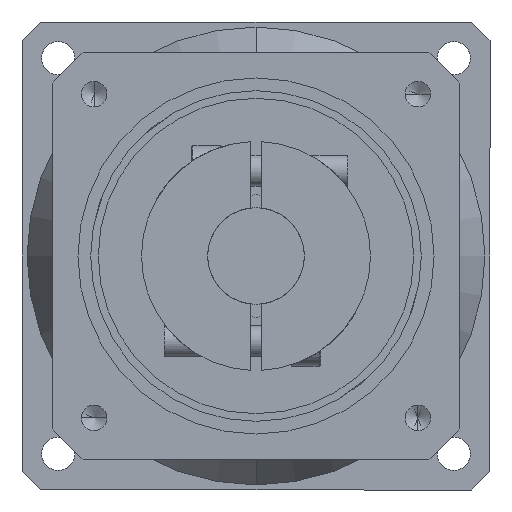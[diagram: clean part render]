
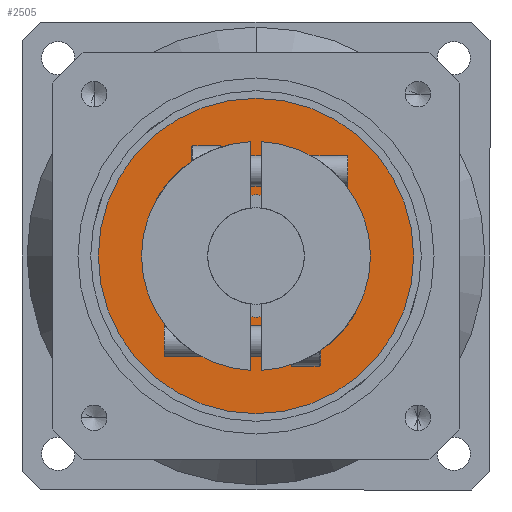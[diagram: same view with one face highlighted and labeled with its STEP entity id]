
A CAD part, front view. The second image highlights one B-rep face of the part: STEP entity #2505.
In plain terms, the highlighted planar face has unit normal (0, -1, 0).
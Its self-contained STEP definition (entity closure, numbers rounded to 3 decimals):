
#81 = VERTEX_POINT ( 'NONE', #3241 ) ;
#141 = EDGE_CURVE ( 'NONE', #81, #1250, #4349, .T. ) ;
#167 = CARTESIAN_POINT ( 'NONE',  ( 0., -122.1, 12. ) ) ;
#180 = DIRECTION ( 'NONE',  ( 0., 0., 1. ) ) ;
#212 = AXIS2_PLACEMENT_3D ( 'NONE', #2942, #463, #3341 ) ;
#243 = EDGE_CURVE ( 'NONE', #4428, #3369, #5045, .T. ) ;
#463 = DIRECTION ( 'NONE',  ( 0., 1., 0. ) ) ;
#553 = DIRECTION ( 'NONE',  ( 0., 1., 0. ) ) ;
#660 = EDGE_LOOP ( 'NONE', ( #3225, #4718 ) ) ;
#1250 = VERTEX_POINT ( 'NONE', #4177 ) ;
#1273 = CARTESIAN_POINT ( 'NONE',  ( 0., -122.1, 0. ) ) ;
#1441 = ORIENTED_EDGE ( 'NONE', *, *, #4666, .T. ) ;
#1513 = CARTESIAN_POINT ( 'NONE',  ( 0., -122.1, -12. ) ) ;
#1664 = CARTESIAN_POINT ( 'NONE',  ( 0., -122.1, 12. ) ) ;
#1797 = DIRECTION ( 'NONE',  ( 0., 1., 0. ) ) ;
#1859 = DIRECTION ( 'NONE',  ( 0., 1., 0. ) ) ;
#1913 = DIRECTION ( 'NONE',  ( 0., 1., 0. ) ) ;
#2505 = ADVANCED_FACE ( 'NONE', ( #4137, #5213 ), #4303, .F. ) ;
#2592 = AXIS2_PLACEMENT_3D ( 'NONE', #4248, #1797, #4648 ) ;
#2893 = EDGE_LOOP ( 'NONE', ( #1441, #3915 ) ) ;
#2942 = CARTESIAN_POINT ( 'NONE',  ( 0., -122.1, 0. ) ) ;
#3019 = AXIS2_PLACEMENT_3D ( 'NONE', #1273, #553, #180 ) ;
#3225 = ORIENTED_EDGE ( 'NONE', *, *, #141, .F. ) ;
#3241 = CARTESIAN_POINT ( 'NONE',  ( 0., -122.1, 31. ) ) ;
#3341 = DIRECTION ( 'NONE',  ( 0., 0., 1. ) ) ;
#3369 = VERTEX_POINT ( 'NONE', #1664 ) ;
#3435 = CIRCLE ( 'NONE', #2592, 31. ) ;
#3859 = AXIS2_PLACEMENT_3D ( 'NONE', #4748, #1913, #4344 ) ;
#3887 = CIRCLE ( 'NONE', #212, 12. ) ;
#3915 = ORIENTED_EDGE ( 'NONE', *, *, #243, .T. ) ;
#4137 = FACE_OUTER_BOUND ( 'NONE', #660, .T. ) ;
#4149 = AXIS2_PLACEMENT_3D ( 'NONE', #167, #1859, #4709 ) ;
#4177 = CARTESIAN_POINT ( 'NONE',  ( 0., -122.1, -31. ) ) ;
#4248 = CARTESIAN_POINT ( 'NONE',  ( 0., -122.1, 0. ) ) ;
#4303 = PLANE ( 'NONE',  #4149 ) ;
#4344 = DIRECTION ( 'NONE',  ( 0., 0., 1. ) ) ;
#4349 = CIRCLE ( 'NONE', #3019, 31. ) ;
#4428 = VERTEX_POINT ( 'NONE', #1513 ) ;
#4648 = DIRECTION ( 'NONE',  ( 0., 0., 1. ) ) ;
#4666 = EDGE_CURVE ( 'NONE', #3369, #4428, #3887, .T. ) ;
#4709 = DIRECTION ( 'NONE',  ( 0., 0., 1. ) ) ;
#4718 = ORIENTED_EDGE ( 'NONE', *, *, #5069, .F. ) ;
#4748 = CARTESIAN_POINT ( 'NONE',  ( 0., -122.1, 0. ) ) ;
#5045 = CIRCLE ( 'NONE', #3859, 12. ) ;
#5069 = EDGE_CURVE ( 'NONE', #1250, #81, #3435, .T. ) ;
#5213 = FACE_BOUND ( 'NONE', #2893, .T. ) ;
